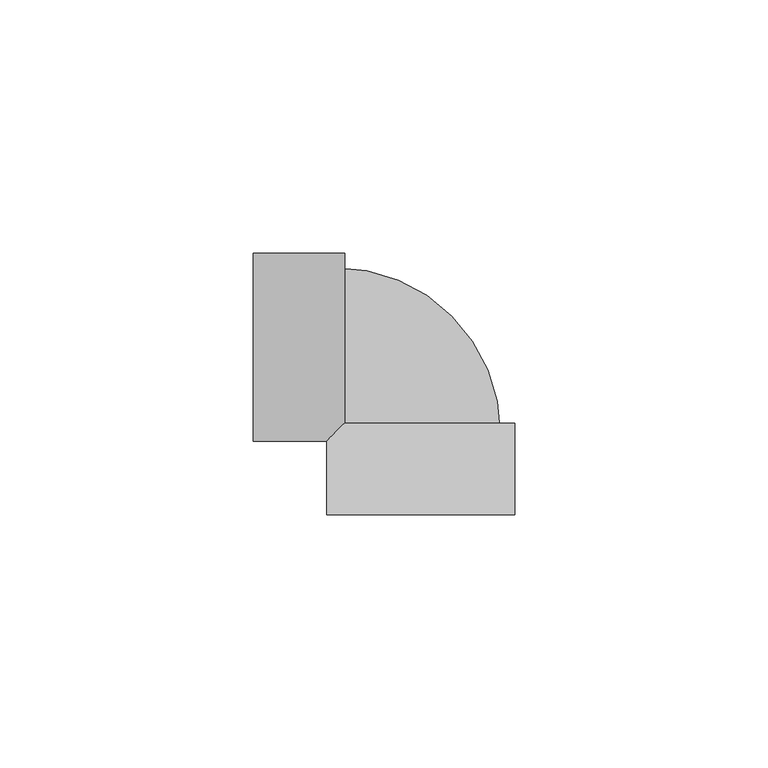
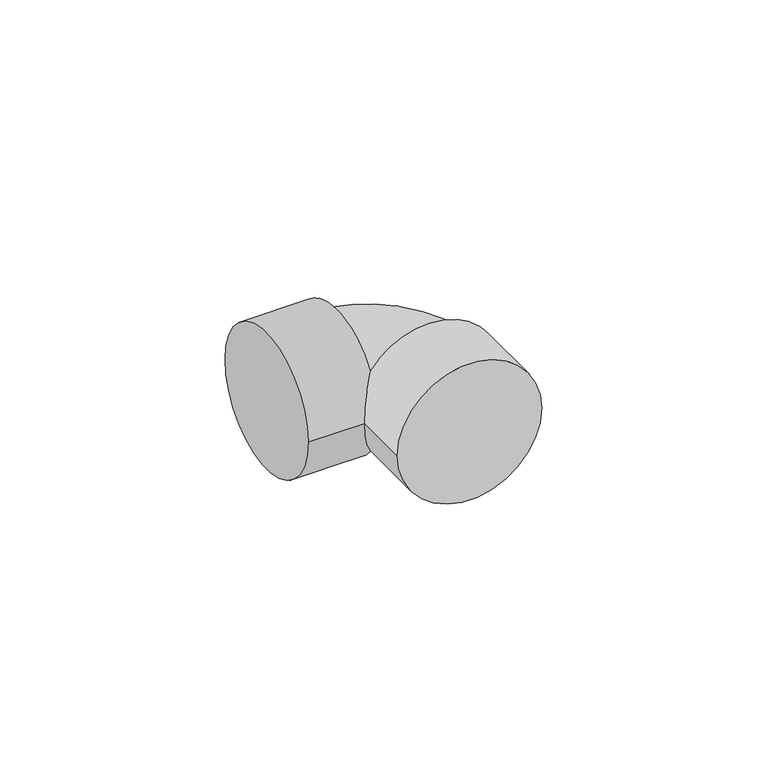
"""IFC4 building model written with IfcOpenShell, lengths in millimetres: pipe fitting geometry, 01011001 : Joelho a 90º."""

from ifc_helpers import new_model, si_unit, point, frame, origin, place, context, project, spatial, circle_curve, ellipse_curve, trimmed, source, transform, mapped, element, save
from ifc_brep_helpers import plane_surface, cylinder_surface, revolved_surface, advanced_brep


def pipe_fitting_4d29a95d(model_context):
    return source(origin(), model_context, "Body", "AdvancedBrep", [
        advanced_brep(
        [(-18.5, -33.0, 0.0), (18.5, -33.0, 0.0), (-15.0, -15.0, -10.8282039), (-15.0, -15.0, 10.8282039), (18.5, -15.0, 0.0), (-18.5, -18.5, 0.0), (-33.0, 18.5, 0.0), (-33.0, -18.5, 0.0), (-15.0, 18.5, 0.0)],
        [
            (0, 1, circle_curve(frame((0.0, -33.0, 0.0), z_axis=(0.0, -1.0, 0.0), x_axis=(1.0, 0.0, 0.0)), 18.5)),
            (1, 0, circle_curve(frame((0.0, -33.0, 0.0), z_axis=(0.0, -1.0, 0.0), x_axis=(1.0, 0.0, 0.0)), 18.5)),
            (2, 3),
            (3, 4, circle_curve(frame((0.0, -15.0, 0.0), z_axis=(0.0, 1.0, 0.0), x_axis=(1.0, 0.0, 0.0)), 18.5)),
            (4, 2, circle_curve(frame((0.0, -15.0, 0.0), z_axis=(0.0, 1.0, 0.0), x_axis=(1.0, 0.0, 0.0)), 18.5)),
            (1, 4),
            (3, 5, ellipse_curve(frame((0.0, 0.0, 0.0), z_axis=(0.7071067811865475, -0.7071067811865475, 0.0), x_axis=(-0.7071067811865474, -0.7071067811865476, 0.0)), 26.1629509, 18.5)),
            (5, 0),
            (5, 2, ellipse_curve(frame((0.0, 0.0, 0.0), z_axis=(0.7071067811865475, -0.7071067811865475, 0.0), x_axis=(-0.7071067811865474, -0.7071067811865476, 0.0)), 26.1629509, 18.5)),
            (6, 7, circle_curve(frame((-33.0, 0.0, 0.0), z_axis=(-1.0, 0.0, 0.0), x_axis=(0.0, -1.0, 0.0)), 18.5)),
            (7, 6, circle_curve(frame((-33.0, 0.0, 0.0), z_axis=(-1.0, 0.0, 0.0), x_axis=(0.0, -1.0, 0.0)), 18.5)),
            (8, 3, circle_curve(frame((-15.0, 0.0, 0.0), z_axis=(1.0, 0.0, 0.0), x_axis=(0.0, -1.0, 0.0)), 18.5)),
            (2, 8, circle_curve(frame((-15.0, 0.0, 0.0), z_axis=(1.0, 0.0, 0.0), x_axis=(0.0, -1.0, 0.0)), 18.5)),
            (7, 5),
            (8, 6),
        ],
        [
            plane_surface(frame((0.0, -33.0, 0.0), z_axis=(0.0, -1.0, 0.0), x_axis=(0.0, 0.0, 1.0))),
            plane_surface(frame((0.0, -15.0, 0.0), z_axis=(0.0, 1.0, 0.0), x_axis=(0.0, 0.0, 1.0))),
            cylinder_surface(frame((0.0, -33.0, 0.0), z_axis=(0.0, -1.0, 0.0), x_axis=(1.0, 0.0, 0.0)), 18.5),
            plane_surface(frame((-33.0, 0.0, 0.0), z_axis=(-1.0, 0.0, 0.0), x_axis=(0.0, 0.0, 1.0))),
            plane_surface(frame((-15.0, 0.0, 0.0), z_axis=(1.0, 0.0, 0.0), x_axis=(0.0, 0.0, 1.0))),
            cylinder_surface(frame((-33.0, 0.0, 0.0), z_axis=(-1.0, 0.0, 0.0), x_axis=(0.0, -1.0, 0.0)), 18.5),
        ],
        [
            (0, [[1, 2]]),
            (1, [[3, 4, 5]]),
            (2, [[6, -4, 7, 8, -2]]),
            (2, [[-8, 9, -5, -6, -1]]),
            (3, [[10, 11]]),
            (4, [[12, -3, 13]]),
            (5, [[14, -7, -12, 15, -11]]),
            (5, [[-15, -13, -9, -14, -10]]),
        ],
    ),
        advanced_brep(
        [(-15.725, -17.0, 0.0), (15.725, -17.0, 0.0), (-17.0, -15.725, 0.0), (-17.0, 15.725, 0.0)],
        [
            (0, 1, circle_curve(frame((0.0, -17.0, 0.0), z_axis=(0.0, -1.0, 0.0), x_axis=(1.0, 0.0, 0.0)), 15.725)),
            (1, 0, circle_curve(frame((0.0, -17.0, 0.0), z_axis=(0.0, -1.0, 0.0), x_axis=(1.0, 0.0, 0.0)), 15.725)),
            (2, 3, circle_curve(frame((-17.0, 0.0, 0.0), z_axis=(-1.0, 0.0, 0.0), x_axis=(0.0, 1.0, 0.0)), 15.725)),
            (3, 2, circle_curve(frame((-17.0, 0.0, 0.0), z_axis=(-1.0, 0.0, 0.0), x_axis=(0.0, 1.0, 0.0)), 15.725)),
            (2, 0, circle_curve(frame((-17.0, -17.0, 0.0), z_axis=(0.0, 0.0, -1.0), x_axis=(1.0, 0.0, 0.0)), 1.275)),
            (1, 3, circle_curve(frame((-17.0, -17.0, 0.0), z_axis=(0.0, 0.0, 1.0), x_axis=(1.0, 0.0, 0.0)), 32.725)),
        ],
        [
            plane_surface(frame((0.0, -17.0, 0.0), z_axis=(0.0, -1.0, 0.0), x_axis=(0.0, 0.0, 1.0))),
            plane_surface(frame((-17.0, 0.0, 0.0), z_axis=(-1.0, 0.0, 0.0), x_axis=(0.0, 0.0, 1.0))),
            revolved_surface(trimmed(ellipse_curve(frame((0.0, -17.0, 0.0), z_axis=(0.0, 1.0, 0.0), x_axis=(1.0, 0.0, 0.0)), 15.725, 15.725), [point((-15.725, -17.0, 0.0))], [point((15.725, -17.0, 0.0))], True, "CARTESIAN"), (-17.0, -17.0, 0.0), (0.0, 0.0, -1.0)),
            revolved_surface(trimmed(ellipse_curve(frame((0.0, -17.0, 0.0), z_axis=(0.0, 1.0, 0.0), x_axis=(1.0, 0.0, 0.0)), 15.725, 15.725), [point((15.725, -17.0, 0.0))], [point((-15.725, -17.0, 0.0))], True, "CARTESIAN"), (-17.0, -17.0, 0.0), (0.0, 0.0, -1.0)),
        ],
        [
            (0, [[1, 2]]),
            (1, [[3, 4]]),
            (2, [[-3, 5, -2, 6]]),
            (3, [[-4, -6, -1, -5]]),
        ],
    ),
    ])


if __name__ == "__main__":
    model = new_model("IFC4")
    model_context = context("Model", 3, world=origin())
    ifc_project = project(units=[si_unit("LENGTHUNIT", "METRE", prefix="MILLI")], contexts=[model_context])
    site = spatial("IfcSite", under=ifc_project)
    building = spatial("IfcBuilding", under=site)
    placement = place(None, origin())
    pipe_fitting_shape = pipe_fitting_4d29a95d(model_context)
    element("IfcPipeFitting", 1, ObjectType="01011001 : Joelho a 90º", at=placement, inside=building, context=model_context, shape_type="MappedRepresentation", body=[
        mapped(pipe_fitting_shape, transform((0.0, 0.0, 0.0), x_axis=(1.0, 0.0, 0.0), y_axis=(0.0, 1.0, 0.0), z_axis=(0.0, 0.0, 1.0))),
    ])
    save(model, "model.ifc")
